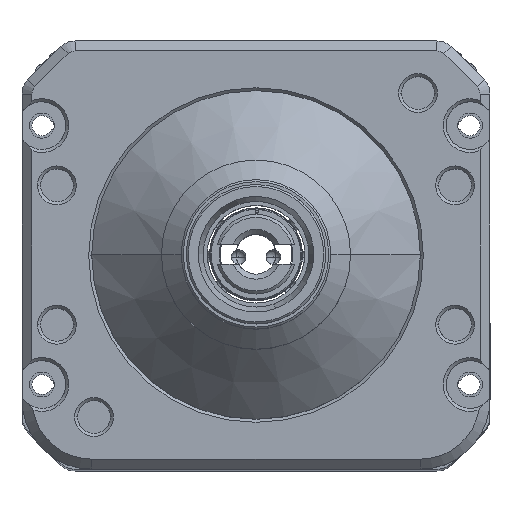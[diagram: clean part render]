
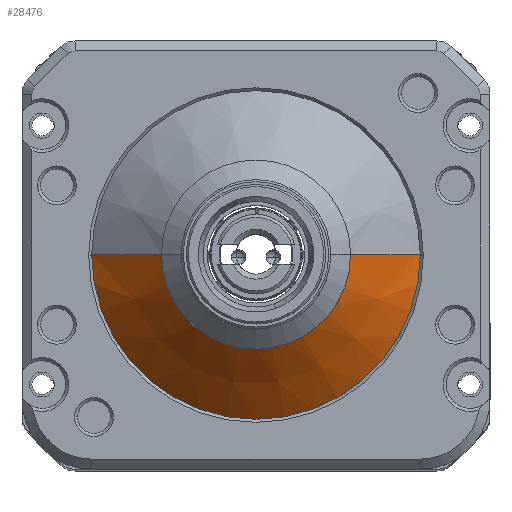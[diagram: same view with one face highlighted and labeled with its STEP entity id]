
A CAD part, top view. The second image highlights one B-rep face of the part: STEP entity #28476.
In plain terms, the highlighted conical face has half-angle 45 degrees and reference radius 9.5 mm.
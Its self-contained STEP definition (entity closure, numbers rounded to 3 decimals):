
#445 = CIRCLE ( 'NONE', #3503, 16.5 ) ;
#703 = EDGE_LOOP ( 'NONE', ( #30640, #8078, #28475, #22993 ) ) ;
#2196 = EDGE_CURVE ( 'NONE', #19410, #29797, #29306, .T. ) ;
#2550 = VECTOR ( 'NONE', #21137, 1000. ) ;
#3503 = AXIS2_PLACEMENT_3D ( 'NONE', #22512, #29418, #17229 ) ;
#3593 = DIRECTION ( 'NONE',  ( -1., 0., 0. ) ) ;
#3832 = EDGE_CURVE ( 'NONE', #9027, #19410, #28233, .T. ) ;
#6411 = CARTESIAN_POINT ( 'NONE',  ( 0., 0., 22. ) ) ;
#8078 = ORIENTED_EDGE ( 'NONE', *, *, #3832, .F. ) ;
#8105 = CARTESIAN_POINT ( 'NONE',  ( 0., 0., 22. ) ) ;
#8943 = CARTESIAN_POINT ( 'NONE',  ( -9.5, 0., 22. ) ) ;
#9027 = VERTEX_POINT ( 'NONE', #26657 ) ;
#11351 = LINE ( 'NONE', #8943, #2550 ) ;
#11961 = CARTESIAN_POINT ( 'NONE',  ( 9.5, 0., 22. ) ) ;
#12530 = CARTESIAN_POINT ( 'NONE',  ( 16.5, 0., 15. ) ) ;
#15165 = FACE_OUTER_BOUND ( 'NONE', #703, .T. ) ;
#16362 = DIRECTION ( 'NONE',  ( 0., 0., 1. ) ) ;
#16476 = VERTEX_POINT ( 'NONE', #21472 ) ;
#17229 = DIRECTION ( 'NONE',  ( 1., 0., 0. ) ) ;
#17440 = VECTOR ( 'NONE', #28824, 1000. ) ;
#19410 = VERTEX_POINT ( 'NONE', #19993 ) ;
#19993 = CARTESIAN_POINT ( 'NONE',  ( 9.5, 0., 22. ) ) ;
#20768 = DIRECTION ( 'NONE',  ( 0., 0., -1. ) ) ;
#21137 = DIRECTION ( 'NONE',  ( -0.707, 0., -0.707 ) ) ;
#21174 = DIRECTION ( 'NONE',  ( 1., 0., 0. ) ) ;
#21472 = CARTESIAN_POINT ( 'NONE',  ( -16.5, 0., 15. ) ) ;
#22098 = AXIS2_PLACEMENT_3D ( 'NONE', #6411, #16362, #21174 ) ;
#22512 = CARTESIAN_POINT ( 'NONE',  ( 0., 0., 15. ) ) ;
#22993 = ORIENTED_EDGE ( 'NONE', *, *, #24943, .T. ) ;
#24943 = EDGE_CURVE ( 'NONE', #16476, #29797, #445, .T. ) ;
#26064 = CONICAL_SURFACE ( 'NONE', #30167, 9.5, 0.785 ) ;
#26657 = CARTESIAN_POINT ( 'NONE',  ( -9.5, 0., 22. ) ) ;
#28233 = CIRCLE ( 'NONE', #22098, 9.5 ) ;
#28475 = ORIENTED_EDGE ( 'NONE', *, *, #29949, .T. ) ;
#28476 = ADVANCED_FACE ( 'NONE', ( #15165 ), #26064, .T. ) ;
#28824 = DIRECTION ( 'NONE',  ( 0.707, 0., -0.707 ) ) ;
#29306 = LINE ( 'NONE', #11961, #17440 ) ;
#29418 = DIRECTION ( 'NONE',  ( 0., 0., 1. ) ) ;
#29797 = VERTEX_POINT ( 'NONE', #12530 ) ;
#29949 = EDGE_CURVE ( 'NONE', #9027, #16476, #11351, .T. ) ;
#30167 = AXIS2_PLACEMENT_3D ( 'NONE', #8105, #20768, #3593 ) ;
#30640 = ORIENTED_EDGE ( 'NONE', *, *, #2196, .F. ) ;
